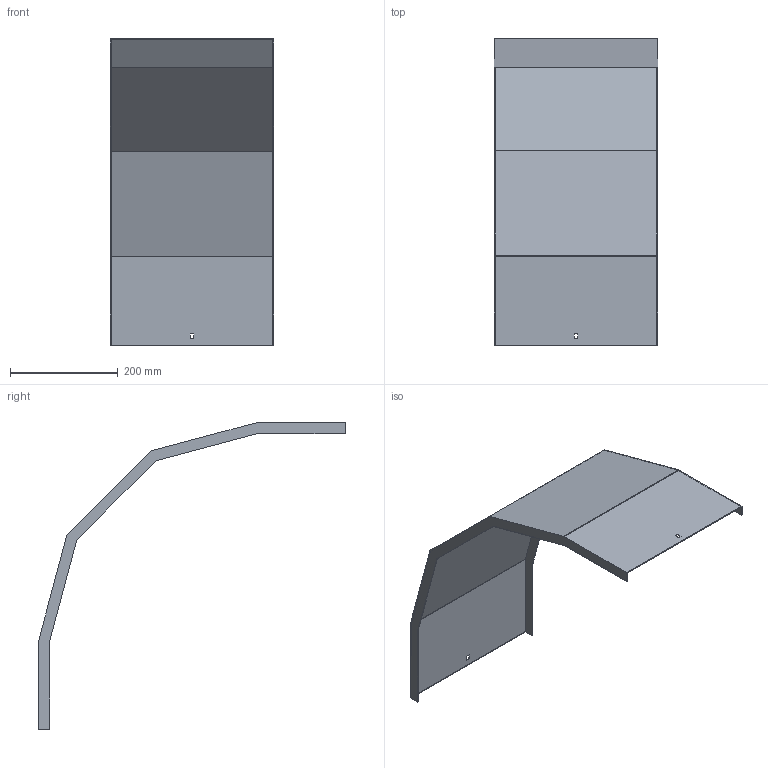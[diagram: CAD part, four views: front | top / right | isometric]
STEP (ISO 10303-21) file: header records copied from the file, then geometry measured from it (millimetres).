
FILE_DESCRIPTION (( 'STEP AP214' ), '1' );
FILE_NAME ('A2_33N3D300.step', '2025-02-21T10:44:57', ( '' ), ( '' ), 'SwSTEP 2.0', 'SolidWorks 2023', '' );
FILE_SCHEMA (( 'AUTOMOTIVE_DESIGN' ));
Length unit declared in the file: millimetre
Products named in the file (1): A2_33N3D300
Bounding box: 303 x 569.61 x 569.61 mm (x, y, z)
Volume: 486379.7 mm3; surface area: 652397.9 mm2
Topology: 1 solids, 1 shells, 34 faces, 96 edges, 64 vertices
Faces by surface type: plane 34
Entity records: 1111 total; most frequent: CARTESIAN_POINT 195, ORIENTED_EDGE 192, DIRECTION 166, EDGE_CURVE 96, LINE 96, VECTOR 96, VERTEX_POINT 64, EDGE_LOOP 38
